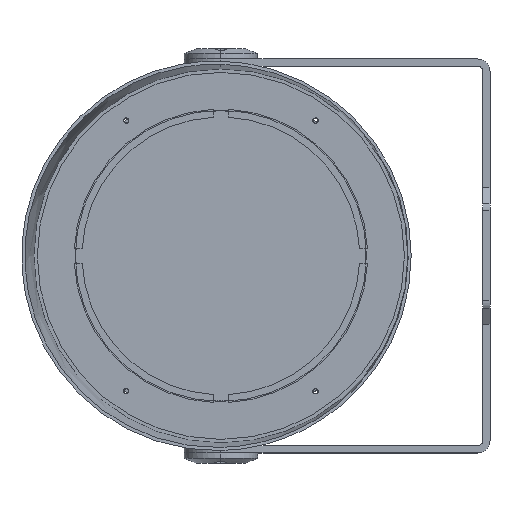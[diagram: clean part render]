
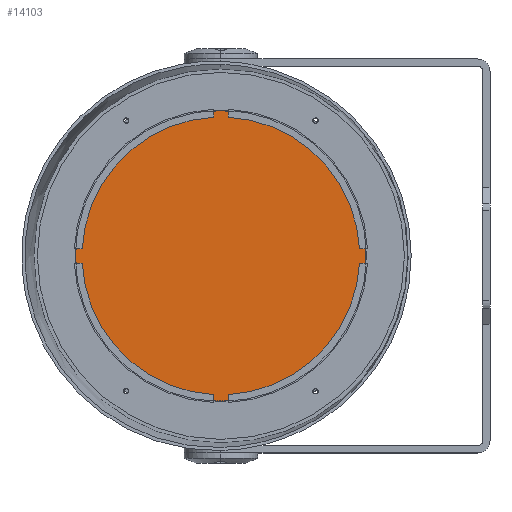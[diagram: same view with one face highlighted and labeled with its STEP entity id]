
A CAD part, top view. The second image highlights one B-rep face of the part: STEP entity #14103.
In plain terms, the highlighted planar face has unit normal (0, 0, 1).
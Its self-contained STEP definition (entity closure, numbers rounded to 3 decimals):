
#1374 = DIRECTION ( 'NONE',  ( 1., 0., 0. ) ) ;
#1971 = FACE_OUTER_BOUND ( 'NONE', #12072, .T. ) ;
#7494 = ORIENTED_EDGE ( 'NONE', *, *, #24952, .F. ) ;
#7640 = CARTESIAN_POINT ( 'NONE',  ( 0., 0., 55.75 ) ) ;
#8331 = VERTEX_POINT ( 'NONE', #29480 ) ;
#8760 = CARTESIAN_POINT ( 'NONE',  ( -126.5, 0., 55.75 ) ) ;
#10810 = DIRECTION ( 'NONE',  ( 1., 0., 0. ) ) ;
#12072 = EDGE_LOOP ( 'NONE', ( #7494, #34959 ) ) ;
#13164 = VERTEX_POINT ( 'NONE', #8760 ) ;
#14103 = ADVANCED_FACE ( 'NONE', ( #1971 ), #25569, .T. ) ;
#20464 = DIRECTION ( 'NONE',  ( 0., 0., -1. ) ) ;
#24943 = EDGE_CURVE ( 'NONE', #13164, #8331, #29282, .T. ) ;
#24952 = EDGE_CURVE ( 'NONE', #8331, #13164, #28730, .T. ) ;
#25137 = DIRECTION ( 'NONE',  ( 1., 0., 0. ) ) ;
#25235 = CARTESIAN_POINT ( 'NONE',  ( 0., 0., 55.75 ) ) ;
#25413 = AXIS2_PLACEMENT_3D ( 'NONE', #40074, #20464, #1374 ) ;
#25419 = AXIS2_PLACEMENT_3D ( 'NONE', #7640, #30184, #10810 ) ;
#25569 = PLANE ( 'NONE',  #41034 ) ;
#26052 = DIRECTION ( 'NONE',  ( 0., 0., 1. ) ) ;
#28730 = CIRCLE ( 'NONE', #25413, 126.5 ) ;
#29282 = CIRCLE ( 'NONE', #25419, 126.5 ) ;
#29480 = CARTESIAN_POINT ( 'NONE',  ( 126.5, 0., 55.75 ) ) ;
#30184 = DIRECTION ( 'NONE',  ( 0., 0., -1. ) ) ;
#34959 = ORIENTED_EDGE ( 'NONE', *, *, #24943, .F. ) ;
#40074 = CARTESIAN_POINT ( 'NONE',  ( 0., 0., 55.75 ) ) ;
#41034 = AXIS2_PLACEMENT_3D ( 'NONE', #25235, #26052, #25137 ) ;
